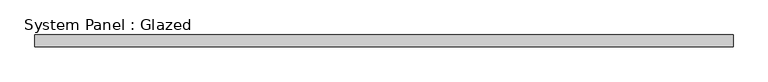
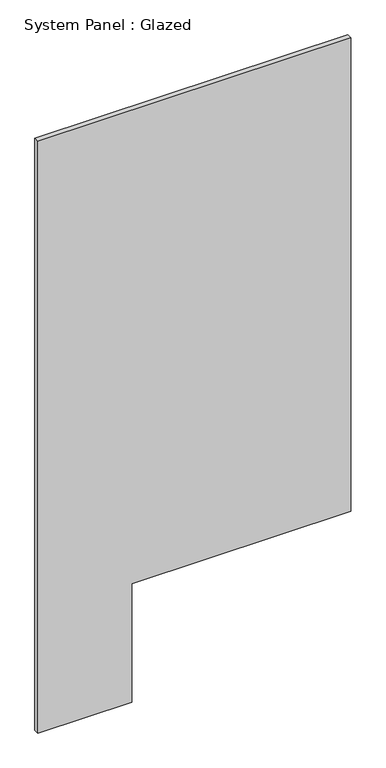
"""IFC4 building model written with IfcOpenShell, lengths in millimetres: plate geometry, System Panel : Glazed."""

from ifc_helpers import new_model, si_unit, frame, origin, place, context, project, spatial, polyline, outline, extrude, source, transform, mapped, element, save


def system_panel_glazed_2c779381(model_context):
    return source(origin(), model_context, "Body", "SweptSolid", [
        extrude(outline(polyline([(0.0, -762.0), (0.0, -304.8), (609.6, -304.8), (609.6, 762.0), (3048.0, 762.0), (3048.0, -762.0), (0.0, -762.0)])), frame((0.0, -44.45, 0.0), z_axis=(0.0, 1.0, 0.0), x_axis=(0.0, 0.0, 1.0)), (0.0, 0.0, 1.0), 25.4),
    ])


if __name__ == "__main__":
    model = new_model("IFC4")
    model_context = context("Model", 3, world=origin())
    ifc_project = project(units=[si_unit("LENGTHUNIT", "METRE", prefix="MILLI")], contexts=[model_context])
    site = spatial("IfcSite", under=ifc_project)
    building = spatial("IfcBuilding", under=site)
    placement = place(None, origin())
    system_panel_glazed_shape = system_panel_glazed_2c779381(model_context)
    element("IfcPlate", 1, ObjectType="System Panel : Glazed", at=placement, inside=building, context=model_context, shape_type="MappedRepresentation", body=[
        mapped(system_panel_glazed_shape, transform((0.0, 0.0, 0.0), x_axis=(1.0, 0.0, 0.0), y_axis=(0.0, 1.0, 0.0), z_axis=(0.0, 0.0, 1.0))),
    ])
    save(model, "model.ifc")
